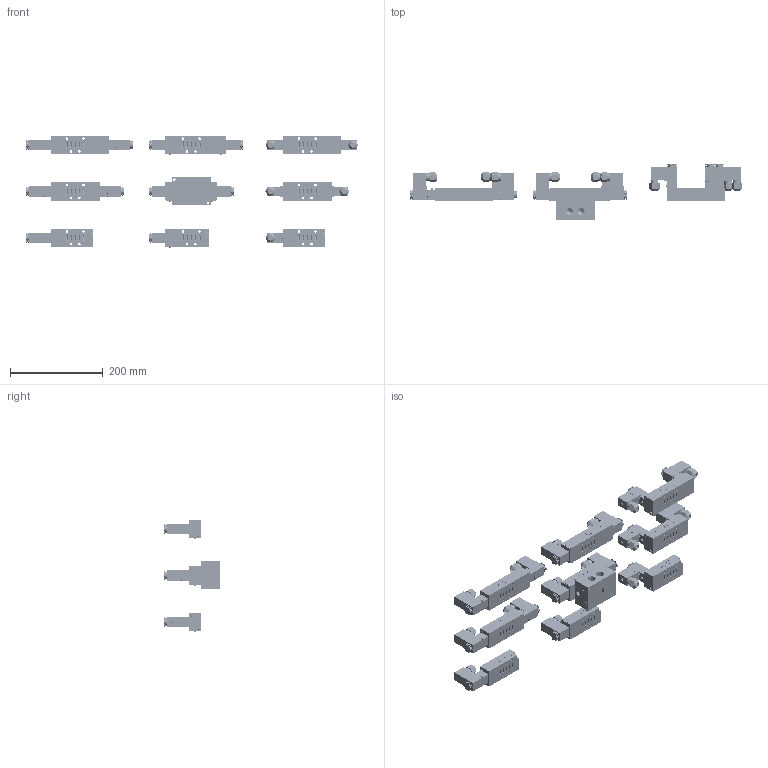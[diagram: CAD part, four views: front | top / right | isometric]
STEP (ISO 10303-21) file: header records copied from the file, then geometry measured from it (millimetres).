
FILE_DESCRIPTION (( 'STEP AP214' ), '1' );
FILE_NAME ('²Õ¦X¥ó2.STEP', '2016-08-15T03:15:41', ( 'Casper' ), ( '' ), 'SwSTEP 2.0', 'SolidWorks 2015', '' );
FILE_SCHEMA (( 'AUTOMOTIVE_DESIGN' ));
Length unit declared in the file: millimetre
Products named in the file (31): M5x0.8x25內六角螺栓; NV-ISO1N-21-D2; NV-ISO1-22-D2; NV-ISO1N-22-D2; 2分-M8塑膠螺帽; NV-ISO1N-32-D2; 2分插頭型線圈(IP67); NVA-ISO1-J01_NVAISO1引導閥(02); NV-5500-N01_NV5500手動操作器; NV-ISO1L-21-D2; 十字皿頭螺絲(M3x0.5x30); NV-ISO1L-22-D2; NVA-7500-G01; NV-ISO1L-32-D2; 可動鐵管件組(2分); 十字皿頭螺絲(M3x0.5x6); NVA-7500-J02; NV-3500-G01; NV-ISO1-C01_NVISO1標準式本體; 十字圓頭螺絲(M3x0.5x15); BM-ISO1-Y01_ISO1單獨式底座; NV-3200-J01_3口2位底座式引導閥01; 十字圓頭螺絲(M3x0.5x25); 組合件2; NVA-ISO1-J02_NVAISO1(L型)A式引導閥(02); NV-ISO1-32-D2; NVA-7500-D01_NVA7500中座; NV-ISO1-21-D2; 十字圓頭螺絲(M3x0.5x6); NVA-7500-K01; NV-ISO1-20-D2
Assembly tree (208 placements, depth 4):
  組合件2
    NV-ISO1-20-D2
      BM-ISO1-Y01_ISO1單獨式底座
      NV-ISO1-22-D2
        NV-ISO1-C01_NVISO1標準式本體
        NVA-7500-J02  x2
        可動鐵管件組(2分)  x2
        NVA-7500-G01  x2
        十字皿頭螺絲(M3x0.5x30)  x5
        NV-5500-N01_NV5500手動操作器  x2
        2分插頭型線圈(IP67)  x2
        2分-M8塑膠螺帽  x2
      M5x0.8x25內六角螺栓  x4
    NV-ISO1-21-D2
      NV-ISO1-C01_NVISO1標準式本體
      NVA-7500-J02
      NVA-7500-K01
      十字圓頭螺絲(M3x0.5x6)  x2
      可動鐵管件組(2分)
      NVA-7500-G01
      十字皿頭螺絲(M3x0.5x30)  x2
      NV-5500-N01_NV5500手動操作器
      2分插頭型線圈(IP67)
      2分-M8塑膠螺帽
    NV-ISO1-32-D2
      NV-ISO1-C01_NVISO1標準式本體
      NVA-7500-J02  x2
      可動鐵管件組(2分)  x2
      NVA-7500-G01  x2
      十字皿頭螺絲(M3x0.5x30)  x5
      NV-5500-N01_NV5500手動操作器  x2
      2分插頭型線圈(IP67)  x2
      2分-M8塑膠螺帽  x2
      NVA-7500-D01_NVA7500中座
    NV-ISO1L-32-D2
      NV-ISO1-C01_NVISO1標準式本體
      NVA-ISO1-J02_NVAISO1(L型)A式引導閥(02)  x2
      十字圓頭螺絲(M3x0.5x25)  x4
      NV-3200-J01_3口2位底座式引導閥01  x2
      十字圓頭螺絲(M3x0.5x15)  x4
      可動鐵管件組(2分)  x2
      NV-3500-G01  x2
      十字皿頭螺絲(M3x0.5x6)  x4
      NV-5500-N01_NV5500手動操作器  x2
      2分插頭型線圈(IP67)  x2
      2分-M8塑膠螺帽  x2
      NVA-7500-D01_NVA7500中座
    NV-ISO1L-22-D2
      NV-ISO1-C01_NVISO1標準式本體
      NVA-ISO1-J02_NVAISO1(L型)A式引導閥(02)  x2
      十字圓頭螺絲(M3x0.5x25)  x4
      NV-3200-J01_3口2位底座式引導閥01  x2
      十字圓頭螺絲(M3x0.5x15)  x4
      可動鐵管件組(2分)  x2
      NV-3500-G01  x2
      十字皿頭螺絲(M3x0.5x6)  x4
      NV-5500-N01_NV5500手動操作器  x2
      2分插頭型線圈(IP67)  x2
      2分-M8塑膠螺帽  x2
    NV-ISO1L-21-D2
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Bounding box: 715.27 x 121 x 242.5 mm (x, y, z)
Volume: 1873325.2 mm3; surface area: 611348.1 mm2
Topology: 258 solids, 258 shells, 11329 faces, 29312 edges, 19260 vertices
Faces by surface type: plane 6373, cylinder 2159, bspline 2150, cone 524, torus 123
Full cylindrical faces by diameter (mm): 1.7 x15, 2 x30, 2.459 x32, 2.5 x96, 3 x78, 3.1 x10, 3.4 x46, 3.5 x46, 4 x20, 4.1 x10, 4.2 x4, 5 x8, 5.5 x84, 6 x72, 6.4 x30, 6.9 x15, 7 x45, 8 x30, 8.5 x4, 8.7 x2, 8.9 x15, 9 x51, 9.728 x2, 10 x30, 10.44 x15, 10.5 x15, 11.94 x30, 12 x15, 14 x15, 15 x15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
Entity records: 54867 total; most frequent: CARTESIAN_POINT 15985, ORIENTED_EDGE 8156, DIRECTION 5976, EDGE_CURVE 4078, VERTEX_POINT 2798, LINE 2190, VECTOR 2190, EDGE_LOOP 1962
